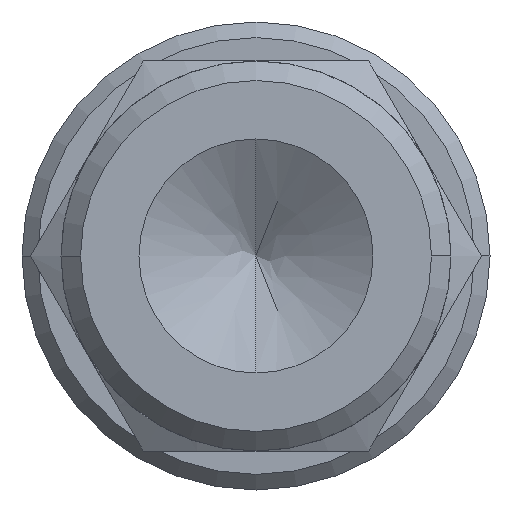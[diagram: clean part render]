
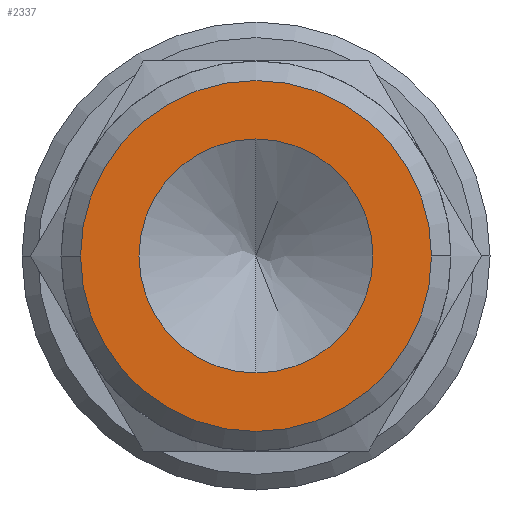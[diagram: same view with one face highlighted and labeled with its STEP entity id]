
A CAD part, left-side view. The second image highlights one B-rep face of the part: STEP entity #2337.
In plain terms, the highlighted planar face has unit normal (-1, 0, 0).
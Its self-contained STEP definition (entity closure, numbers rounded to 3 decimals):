
#49=CARTESIAN_POINT('',(-1.35,-0.509,-1.774));
#50=VERTEX_POINT('',#49);
#59=CARTESIAN_POINT('',(-1.35,8.491,-1.774));
#60=VERTEX_POINT('',#59);
#61=CARTESIAN_POINT('',(-1.35,3.991,-1.774));
#62=DIRECTION('',(1.0,0.0,0.0));
#63=DIRECTION('',(0.0,-1.0,0.0));
#64=AXIS2_PLACEMENT_3D('',#61,#62,#63);
#65=CIRCLE('',#64,4.5);
#66=EDGE_CURVE('',#50,#60,#65,.T.);
#652=CARTESIAN_POINT('',(-1.35,3.991,1.226));
#653=VERTEX_POINT('',#652);
#669=CARTESIAN_POINT('',(-1.35,3.991,-4.774));
#670=VERTEX_POINT('',#669);
#677=CARTESIAN_POINT('',(-1.35,3.991,-1.774));
#678=DIRECTION('',(1.0,0.0,0.0));
#679=DIRECTION('',(0.0,0.0,1.0));
#680=AXIS2_PLACEMENT_3D('',#677,#678,#679);
#681=CIRCLE('',#680,3.);
#682=EDGE_CURVE('',#653,#670,#681,.T.);
#1883=CARTESIAN_POINT('',(-1.35,3.991,-1.774));
#1884=DIRECTION('',(1.0,0.0,0.0));
#1885=DIRECTION('',(0.0,0.0,1.0));
#1886=AXIS2_PLACEMENT_3D('',#1883,#1884,#1885);
#1887=CIRCLE('',#1886,3.);
#1888=EDGE_CURVE('',#670,#653,#1887,.T.);
#2314=CARTESIAN_POINT('',(-1.35,3.991,-1.774));
#2315=DIRECTION('',(1.0,0.0,0.0));
#2316=DIRECTION('',(0.0,-1.0,0.0));
#2317=AXIS2_PLACEMENT_3D('',#2314,#2315,#2316);
#2318=CIRCLE('',#2317,4.5);
#2319=EDGE_CURVE('',#60,#50,#2318,.T.);
#2324=CARTESIAN_POINT('',(-1.35,6.491,-1.774));
#2325=DIRECTION('',(-1.0,0.0,0.0));
#2326=DIRECTION('',(0.0,0.0,1.0));
#2327=AXIS2_PLACEMENT_3D('',#2324,#2325,#2326);
#2328=PLANE('',#2327);
#2329=ORIENTED_EDGE('',*,*,#2319,.F.);
#2330=ORIENTED_EDGE('',*,*,#66,.F.);
#2331=EDGE_LOOP('',(#2329,#2330));
#2332=FACE_OUTER_BOUND('',#2331,.T.);
#2333=ORIENTED_EDGE('',*,*,#682,.T.);
#2334=ORIENTED_EDGE('',*,*,#1888,.T.);
#2335=EDGE_LOOP('',(#2333,#2334));
#2336=FACE_BOUND('',#2335,.T.);
#2337=ADVANCED_FACE('',(#2332,#2336),#2328,.T.);
